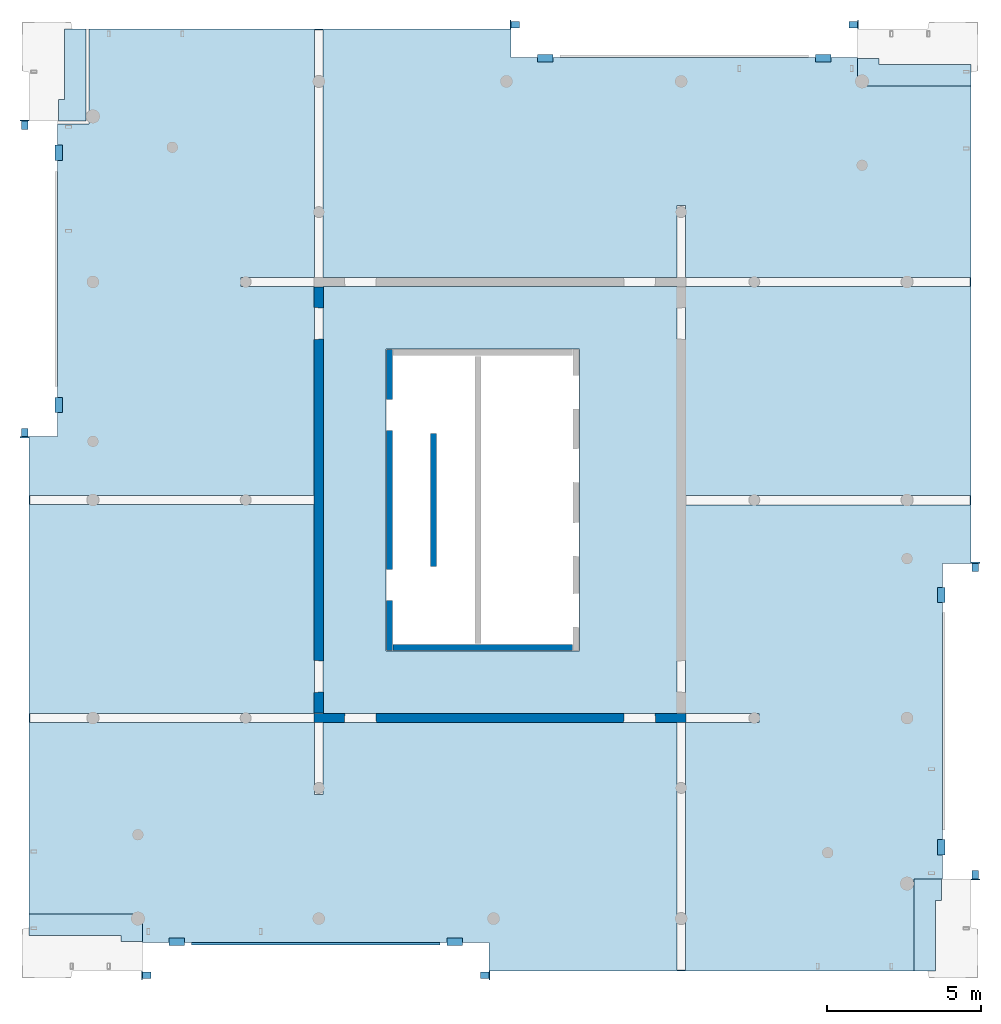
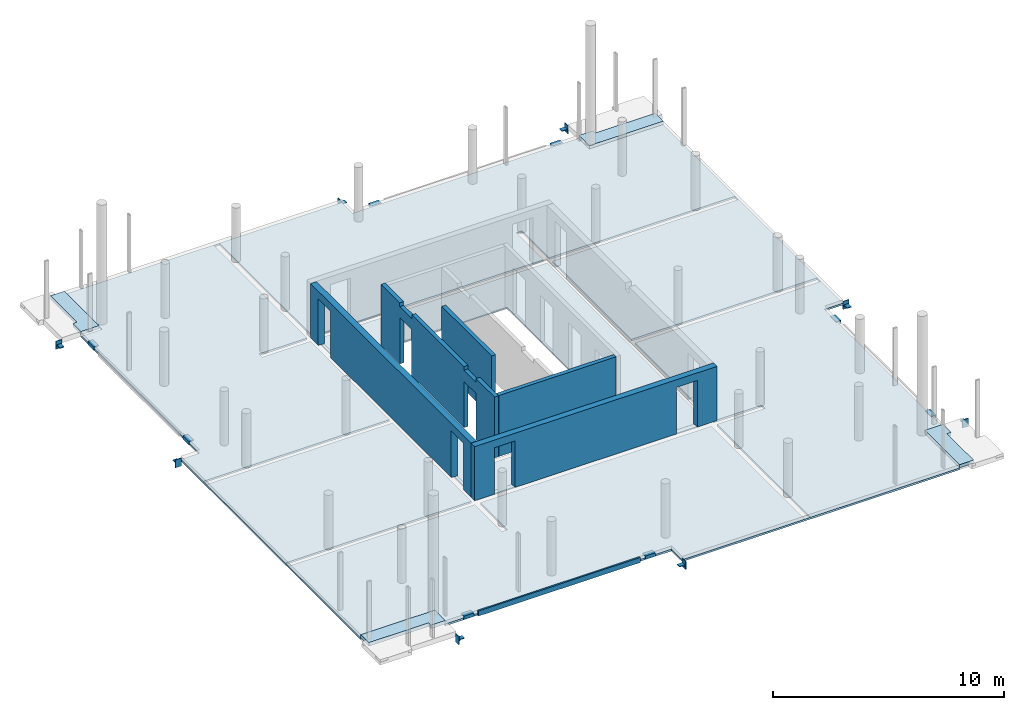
# One storey, part 5 of 7: 16 beams, 6 slabs, 6 walls, 10 openings.
"""IFC2X3 building model written with IfcOpenShell, lengths in millimetres."""

from ifc_helpers import new_model, entity, si_unit, converted_unit, derived_unit, direction, frame, frame_2d, origin, origin_2d_with_axis, place, context, subcontext, project, spatial, polyline, rectangle, outline, extrude, faceted_brep, source, transform, mapped, material, layer, layer_set, layer_usage, type_object, type_shapes, element, save


model = new_model("IFC2X3")

# Units and contexts
model_context = context("Model", 3, precision=0.01, world=origin(), true_north=direction((6.12303176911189e-17, 1.0)))
body_context = subcontext(model_context, "Body", "Model", "MODEL_VIEW")
ifc_project = project(units=[si_unit("LENGTHUNIT", "METRE", prefix="MILLI"), si_unit("AREAUNIT", "SQUARE_METRE"), si_unit("VOLUMEUNIT", "CUBIC_METRE"), converted_unit("PLANEANGLEUNIT", "DEGREE", entity("IfcRatioMeasure", 0.0174532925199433), si_unit("PLANEANGLEUNIT", "RADIAN"), dimensions=[0, 0, 0, 0, 0, 0, 0]), si_unit("MASSUNIT", "GRAM", prefix="KILO"), derived_unit("MASSDENSITYUNIT", [(si_unit("MASSUNIT", "GRAM", prefix="KILO"), 1), (si_unit("LENGTHUNIT", "METRE"), -3)]), si_unit("TIMEUNIT", "SECOND"), si_unit("FREQUENCYUNIT", "HERTZ"), si_unit("THERMODYNAMICTEMPERATUREUNIT", "DEGREE_CELSIUS"), derived_unit("THERMALTRANSMITTANCEUNIT", [(si_unit("MASSUNIT", "GRAM", prefix="KILO"), 1), (si_unit("THERMODYNAMICTEMPERATUREUNIT", "KELVIN"), -1), (si_unit("TIMEUNIT", "SECOND"), -3)]), derived_unit("VOLUMETRICFLOWRATEUNIT", [(si_unit("LENGTHUNIT", "METRE"), 3), (si_unit("TIMEUNIT", "SECOND"), -1)]), si_unit("ELECTRICCURRENTUNIT", "AMPERE"), si_unit("ELECTRICVOLTAGEUNIT", "VOLT"), si_unit("POWERUNIT", "WATT"), si_unit("FORCEUNIT", "NEWTON", prefix="KILO"), si_unit("ILLUMINANCEUNIT", "LUX"), si_unit("LUMINOUSFLUXUNIT", "LUMEN"), si_unit("LUMINOUSINTENSITYUNIT", "CANDELA"), derived_unit("USERDEFINED", [(si_unit("MASSUNIT", "GRAM", prefix="KILO"), -1), (si_unit("LENGTHUNIT", "METRE"), -2), (si_unit("TIMEUNIT", "SECOND"), 3), (si_unit("LUMINOUSFLUXUNIT", "LUMEN"), 1)]), derived_unit("LINEARVELOCITYUNIT", [(si_unit("LENGTHUNIT", "METRE"), 1), (si_unit("TIMEUNIT", "SECOND"), -1)]), si_unit("PRESSUREUNIT", "PASCAL"), derived_unit("USERDEFINED", [(si_unit("LENGTHUNIT", "METRE"), -2), (si_unit("MASSUNIT", "GRAM", prefix="KILO"), 1), (si_unit("TIMEUNIT", "SECOND"), -2)])], contexts=[model_context])

# Site, building, storey
site_placement = place(None, origin())
site = spatial("IfcSite", under=ifc_project, at=site_placement, Name="Default", CompositionType="ELEMENT")
building_placement = place(site_placement, origin())
building = spatial("IfcBuilding", under=site, at=building_placement, Name="niet gebruiken", CompositionType="ELEMENT")
storey_placement = place(building_placement, frame((0.0, 0.0, 165060.0)))
storey = spatial("IfcBuildingStorey", under=building, at=storey_placement, Name="53 drieënvijftigste verdieping", CompositionType="ELEMENT", Elevation=165060.0)

# Beams
ifc_material_1 = material(Name="NLRS_h2_staal")
beam_type_1 = type_object("IfcBeamType", Name="NLRS_28.11_SF_WPB_stalen schoen 4_gen", PredefinedType="BEAM", material=ifc_material_1)
shared_shape_1 = source(origin(), body_context, "Body", "SweptSolid", [
    extrude(outline(polyline([(-69.4999999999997, -23.0), (8.49999999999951, -23.0), (30.5, -1.0), (30.5000000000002, 47.0), (-69.4999999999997, -23.0)])), frame((-105.0, -109.499999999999, -58.0), z_axis=(1.0, 0.0, 0.0), x_axis=(0.0, -1.0, 0.0)), (0.0, 0.0, 1.0), 35.0),
    extrude(outline(polyline([(-69.4999999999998, -23.0), (8.49999999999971, -23.0), (30.5, -1.0), (30.5000000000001, 47.0), (-69.4999999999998, -23.0)])), frame((70.0, -109.499999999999, -58.0), z_axis=(1.0, 0.0, 0.0), x_axis=(0.0, -1.0, 0.0)), (0.0, 0.0, 1.0), 35.0),
    extrude(rectangle(XDim=300.0, YDim=34.9999999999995, at=origin_2d_with_axis()), frame((0.0, -157.5, -230.0), z_axis=(0.0, 0.0, 1.0), x_axis=(-1.0, 0.0, 0.0)), (0.0, 0.0, 1.0), 420.0),
    extrude(rectangle(XDim=210.000000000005, YDim=274.999999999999, at=origin_2d_with_axis()), frame((0.0, -2.4999999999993, -35.0), z_axis=(0.0, 0.0, 1.0), x_axis=(-1.0, 0.0, 0.0)), (0.0, 0.0, 1.0), 35.0),
])
type_shapes(beam_type_1, [shared_shape_1])
for number, where, z_axis, x_axis, name in (
    (1, (141250.0, 2020.0, -370.0), (0.0, 0.0, 1.0), (0.0, 1.0, 0.0), "NLRS_28.11_SF_WPB_stalen schoen 4_gen:NLRS_28.11_SF_WPB_stalen schoen 4_gen"),
    (2, (142250.0, 32980.0, -370.0), (0.0, 0.0, 1.0), (0.0, -1.0, 0.0), "NLRS_28.11_SF_WPB_stalen schoen 4_gen:NLRS_28.11_SF_WPB_stalen schoen 4_gen"),
    (3, (157230.0, 15300.0, -370.0), (0.0, 0.0, 1.0), (-1.0, 0.0, 0.0), "NLRS_28.11_SF_WPB_stalen schoen 4_gen:NLRS_28.11_SF_WPB_stalen schoen 4_gen"),
):
    element("IfcBeam", number, at=place(storey_placement, frame(where, z_axis=z_axis, x_axis=x_axis)), inside=storey, type_object=beam_type_1, material=ifc_material_1, Name=name, ObjectType="NLRS_28.11_SF_WPB_stalen schoen 4_gen", context=body_context, shape_type="MappedRepresentation", body=[
        mapped(shared_shape_1, transform((0.0, 0.0, 0.0), scale=1.0)),
    ])
beam_1_placement = place(storey_placement, frame((126270.0, 19700.0, -370.0)))
element("IfcBeam", 4, at=beam_1_placement, inside=storey, type_object=beam_type_1, material=ifc_material_1, Name="NLRS_28.11_SF_WPB_stalen schoen 4_gen:NLRS_28.11_SF_WPB_stalen schoen 4_gen", ObjectType="NLRS_28.11_SF_WPB_stalen schoen 4_gen", context=body_context, shape_type="MappedRepresentation", body=[
    mapped(shared_shape_1, transform((0.0, 0.0, 0.0), scale=1.0)),
])
beam_type_2 = type_object("IfcBeamType", Name="NLRS_28.11_SF_WPB_stalen schoen 3_gen", PredefinedType="BEAM", material=ifc_material_1)
shared_shape_2 = source(origin(), body_context, "Body", "SweptSolid", [
    extrude(outline(polyline([(-69.4999999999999, -23.0), (8.49999999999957, -23.0), (30.5000000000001, -1.0), (30.5000000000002, 47.0), (-69.4999999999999, -23.0)])), frame((-105.0, -109.499999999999, -63.0), z_axis=(1.0, 0.0, 0.0), x_axis=(0.0, -1.0, 0.0)), (0.0, 0.0, 1.0), 40.0),
    extrude(outline(polyline([(-69.4999999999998, -23.0), (8.49999999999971, -23.0), (30.5, -1.0), (30.5000000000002, 47.0), (-69.4999999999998, -23.0)])), frame((65.0, -109.499999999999, -63.0), z_axis=(1.0, 0.0, 0.0), x_axis=(0.0, -1.0, 0.0)), (0.0, 0.0, 1.0), 40.0),
    extrude(rectangle(XDim=300.0, YDim=39.9999999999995, at=origin_2d_with_axis()), frame((0.0, -160.0, -230.0), z_axis=(0.0, 0.0, 1.0), x_axis=(-1.0, 0.0, 0.0)), (0.0, 0.0, 1.0), 420.0),
    extrude(rectangle(XDim=210.000000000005, YDim=274.999999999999, at=origin_2d_with_axis()), frame((0.0, -2.49999999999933, -40.0), z_axis=(0.0, 0.0, 1.0), x_axis=(-1.0, 0.0, 0.0)), (0.0, 0.0, 1.0), 39.9999999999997),
])
type_shapes(beam_type_2, [shared_shape_2])
for number, where, z_axis, x_axis, name in (
    (5, (130250.0, 2020.0, -370.0), (0.0, 0.0, 1.0), (0.0, -1.0, 0.0), "NLRS_28.11_SF_WPB_stalen schoen 3_gen:NLRS_28.11_SF_WPB_stalen schoen 3_gen"),
    (6, (153250.0, 32980.0, -370.0), (0.0, 0.0, 1.0), (0.0, 1.0, 0.0), "NLRS_28.11_SF_WPB_stalen schoen 3_gen:NLRS_28.11_SF_WPB_stalen schoen 3_gen"),
):
    element("IfcBeam", number, at=place(storey_placement, frame(where, z_axis=z_axis, x_axis=x_axis)), inside=storey, type_object=beam_type_2, material=ifc_material_1, Name=name, ObjectType="NLRS_28.11_SF_WPB_stalen schoen 3_gen", context=body_context, shape_type="MappedRepresentation", body=[
        mapped(shared_shape_2, transform((0.0, 0.0, 0.0), scale=1.0)),
    ])
beam_2_placement = place(storey_placement, frame((157230.0, 5300.0, -370.0)))
element("IfcBeam", 7, at=beam_2_placement, inside=storey, type_object=beam_type_2, material=ifc_material_1, Name="NLRS_28.11_SF_WPB_stalen schoen 3_gen:NLRS_28.11_SF_WPB_stalen schoen 3_gen", ObjectType="NLRS_28.11_SF_WPB_stalen schoen 3_gen", context=body_context, shape_type="MappedRepresentation", body=[
    mapped(shared_shape_2, transform((0.0, 0.0, 0.0), scale=1.0)),
])
beam_3_placement = place(storey_placement, frame((126270.0, 29700.0, -370.0), z_axis=(0.0, 0.0, 1.0), x_axis=(-1.0, 0.0, 0.0)))
element("IfcBeam", 8, at=beam_3_placement, inside=storey, type_object=beam_type_2, material=ifc_material_1, Name="NLRS_28.11_SF_WPB_stalen schoen 3_gen:NLRS_28.11_SF_WPB_stalen schoen 3_gen", ObjectType="NLRS_28.11_SF_WPB_stalen schoen 3_gen", context=body_context, shape_type="MappedRepresentation", body=[
    mapped(shared_shape_2, transform((0.0, 0.0, 0.0), scale=1.0)),
])
beam_type_3 = type_object("IfcBeamType", Name="NLRS_28.11_SF_WPB_stalen handje 7 lang 375_gen:NLRS_28.11_SF_WPB_stalen handje 7_gen", PredefinedType="BEAM")
for number, where, z_axis, x_axis, name in (
    (9, (140525.006582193, 2995.0, -93.0), (0.0, 0.0, 1.0), (-1.0, 0.0, 0.0), "NLRS_28.11_SF_WPB_stalen handje 7 lang 375_gen:NLRS_28.11_SF_WPB_stalen handje 7_gen"),
    (10, (131475.003540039, 2995.0, -93.0), (0.0, 0.0, 1.0), (-1.0, 0.0, 0.0), "NLRS_28.11_SF_WPB_stalen handje 7 lang 375_gen:NLRS_28.11_SF_WPB_stalen handje 7_gen"),
):
    element("IfcBeam", number, at=place(storey_placement, frame(where, z_axis=z_axis, x_axis=x_axis)), inside=storey, type_object=beam_type_3, material=ifc_material_1, Name=name, ObjectType="NLRS_28.11_SF_WPB_stalen handje 7 lang 375_gen:NLRS_28.11_SF_WPB_stalen handje 7_gen", context=body_context, shape_type="SweptSolid", body=[
        extrude(outline(polyline([(-70.6666666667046, -153.333333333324), (-40.6666666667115, -153.333333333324), (-40.6666666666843, 61.6666666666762), (111.333333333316, 61.6666666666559), (111.33333333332, 91.6666666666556), (-70.6666666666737, 91.6666666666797), (-70.6666666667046, -153.333333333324)])), frame((0.0, -91.6666666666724, -70.6666666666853), z_axis=(1.0, 0.0, 0.0), x_axis=(0.0, 0.0, -1.0)), (0.0, 0.0, 1.0), 500.000000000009),
    ])
beam_4_placement = place(storey_placement, frame((142974.993417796, 32005.0, -93.0)))
element("IfcBeam", 11, at=beam_4_placement, inside=storey, type_object=beam_type_3, material=ifc_material_1, Name="NLRS_28.11_SF_WPB_stalen handje 7 lang 375_gen:NLRS_28.11_SF_WPB_stalen handje 7_gen", ObjectType="NLRS_28.11_SF_WPB_stalen handje 7 lang 375_gen:NLRS_28.11_SF_WPB_stalen handje 7_gen", context=body_context, shape_type="SweptSolid", body=[
    extrude(outline(polyline([(-70.6666666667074, -153.333333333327), (-40.6666666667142, -153.333333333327), (-40.6666666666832, 61.6666666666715), (111.333333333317, 61.6666666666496), (111.333333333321, 91.6666666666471), (-70.666666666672, 91.6666666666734), (-70.6666666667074, -153.333333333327)])), frame((0.0, -91.6666666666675, -70.6666666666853), z_axis=(1.0, 0.0, 0.0), x_axis=(0.0, 0.0, -1.0)), (0.0, 0.0, 1.0), 500.000000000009),
])
beam_5_placement = place(storey_placement, frame((152024.99645995, 32005.0, -93.0)))
element("IfcBeam", 12, at=beam_5_placement, inside=storey, type_object=beam_type_3, material=ifc_material_1, Name="NLRS_28.11_SF_WPB_stalen handje 7 lang 375_gen:NLRS_28.11_SF_WPB_stalen handje 7_gen", ObjectType="NLRS_28.11_SF_WPB_stalen handje 7 lang 375_gen:NLRS_28.11_SF_WPB_stalen handje 7_gen", context=body_context, shape_type="SweptSolid", body=[
    extrude(outline(polyline([(-70.6666666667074, -153.333333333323), (-40.6666666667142, -153.333333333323), (-40.6666666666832, 61.6666666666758), (111.333333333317, 61.6666666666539), (111.333333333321, 91.6666666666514), (-70.666666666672, 91.6666666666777), (-70.6666666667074, -153.333333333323)])), frame((0.0, -91.6666666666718, -70.6666666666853), z_axis=(1.0, 0.0, 0.0), x_axis=(0.0, 0.0, -1.0)), (0.0, 0.0, 1.0), 500.000000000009),
])
beam_6_placement = place(storey_placement, frame((156235.0, 14655.0097115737, -93.0), z_axis=(0.0, 0.0, 1.0), x_axis=(0.0, -1.0, 0.0)))
element("IfcBeam", 13, at=beam_6_placement, inside=storey, type_object=beam_type_3, material=ifc_material_1, Name="NLRS_28.11_SF_WPB_stalen handje 7 lang 375_gen:NLRS_28.11_SF_WPB_stalen handje 7_gen", ObjectType="NLRS_28.11_SF_WPB_stalen handje 7 lang 375_gen:NLRS_28.11_SF_WPB_stalen handje 7_gen", context=body_context, shape_type="SweptSolid", body=[
    extrude(outline(polyline([(-70.6666666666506, -153.333333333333), (-40.6666666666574, -153.333333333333), (-40.6666666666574, 61.66666666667), (111.333333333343, 61.66666666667), (111.333333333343, 91.6666666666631), (-70.6666666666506, 91.6666666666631), (-70.6666666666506, -153.333333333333)])), frame((0.0, -91.666666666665, -70.6666666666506), z_axis=(1.0, 0.0, 0.0), x_axis=(0.0, 0.0, -1.0)), (0.0, 0.0, 1.0), 500.000000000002),
])
beam_7_placement = place(storey_placement, frame((156235.0, 6445.00971157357, -93.0), z_axis=(0.0, 0.0, 1.0), x_axis=(0.0, -1.0, 0.0)))
element("IfcBeam", 14, at=beam_7_placement, inside=storey, type_object=beam_type_3, material=ifc_material_1, Name="NLRS_28.11_SF_WPB_stalen handje 7 lang 375_gen:NLRS_28.11_SF_WPB_stalen handje 7_gen", ObjectType="NLRS_28.11_SF_WPB_stalen handje 7 lang 375_gen:NLRS_28.11_SF_WPB_stalen handje 7_gen", context=body_context, shape_type="SweptSolid", body=[
    extrude(outline(polyline([(-70.6666666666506, -153.333333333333), (-40.6666666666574, -153.333333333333), (-40.6666666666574, 61.66666666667), (111.333333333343, 61.66666666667), (111.333333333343, 91.6666666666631), (-70.6666666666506, 91.6666666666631), (-70.6666666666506, -153.333333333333)])), frame((0.0, -91.666666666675, -70.6666666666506), z_axis=(1.0, 0.0, 0.0), x_axis=(0.0, 0.0, -1.0)), (0.0, 0.0, 1.0), 500.000000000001),
])
beam_8_placement = place(storey_placement, frame((127265.0, 20344.990288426, -93.0), z_axis=(0.0, 0.0, 1.0), x_axis=(0.0, 1.0, 0.0)))
element("IfcBeam", 15, at=beam_8_placement, inside=storey, type_object=beam_type_3, material=ifc_material_1, Name="NLRS_28.11_SF_WPB_stalen handje 7 lang 375_gen:NLRS_28.11_SF_WPB_stalen handje 7_gen", ObjectType="NLRS_28.11_SF_WPB_stalen handje 7 lang 375_gen:NLRS_28.11_SF_WPB_stalen handje 7_gen", context=body_context, shape_type="SweptSolid", body=[
    extrude(outline(polyline([(-70.6666666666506, -153.333333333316), (-40.6666666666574, -153.333333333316), (-40.6666666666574, 61.6666666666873), (111.333333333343, 61.66666666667), (111.333333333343, 91.6666666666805), (-70.6666666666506, 91.6666666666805), (-70.6666666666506, -153.333333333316)])), frame((0.0, -91.6666666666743, -70.6666666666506), z_axis=(1.0, 0.0, 0.0), x_axis=(0.0, 0.0, -1.0)), (0.0, 0.0, 1.0), 500.000000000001),
])
beam_9_placement = place(storey_placement, frame((127265.0, 28554.9902884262, -93.0), z_axis=(0.0, 0.0, 1.0), x_axis=(0.0, 1.0, 0.0)))
element("IfcBeam", 16, at=beam_9_placement, inside=storey, type_object=beam_type_3, material=ifc_material_1, Name="NLRS_28.11_SF_WPB_stalen handje 7 lang 375_gen:NLRS_28.11_SF_WPB_stalen handje 7_gen", ObjectType="NLRS_28.11_SF_WPB_stalen handje 7 lang 375_gen:NLRS_28.11_SF_WPB_stalen handje 7_gen", context=body_context, shape_type="SweptSolid", body=[
    extrude(outline(polyline([(-70.6666666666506, -153.333333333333), (-40.6666666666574, -153.333333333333), (-40.6666666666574, 61.66666666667), (111.333333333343, 61.6666666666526), (111.333333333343, 91.6666666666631), (-70.6666666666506, 91.6666666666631), (-70.6666666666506, -153.333333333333)])), frame((0.0, -91.6666666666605, -70.6666666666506), z_axis=(1.0, 0.0, 0.0), x_axis=(0.0, 0.0, -1.0)), (0.0, 0.0, 1.0), 500.000000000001),
])

# Slabs
ifc_material_2 = material(Name="NLRS_f2_beton ihwg")
ifc_layer_1 = layer(ifc_material_2, 170.0)
ifc_layer_set_1 = layer_set([ifc_layer_1], Name="Floor:NLRS_23.21_FL_beton ihwg d=170_gen")
ifc_layer_usage_1 = layer_usage(ifc_layer_set_1, "AXIS3", "POSITIVE", 0.0)
slab_1_placement = place(storey_placement, origin())
element("IfcSlab", 17, at=slab_1_placement, inside=storey, material=ifc_layer_usage_1, Name="Floor:NLRS_23.21_FL_beton ihwg d=170_gen", ObjectType="Floor:NLRS_23.21_FL_beton ihwg d=170_gen", PredefinedType="FLOOR", context=body_context, shape_type="SweptSolid", body=[
    extrude(outline(polyline([(-1760.0, -533.333333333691), (1230.0, -533.333333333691), (1230.0, 366.666666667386), (530.0, 366.666666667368), (530.0, 166.666666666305), (-1760.0, 166.666666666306), (-1760.0, -533.333333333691)])), frame((155763.333333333, 3930.0, -90.0), z_axis=(0.0, 0.0, -1.0), x_axis=(0.0, 1.0, 0.0)), (0.0, 0.0, 1.0), 169.999999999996),
])
ifc_layer_2 = layer(ifc_material_2, 190.0)
ifc_layer_set_2 = layer_set([ifc_layer_2], Name="Floor:NLRS_23.21_FL_beton ihwg d=190_gen")
ifc_layer_usage_2 = layer_usage(ifc_layer_set_2, "AXIS3", "POSITIVE", 0.0)
slab_2_placement = place(storey_placement, origin())
element("IfcSlab", 18, at=slab_2_placement, inside=storey, material=ifc_layer_usage_2, Name="Floor:NLRS_23.21_FL_beton ihwg d=190_gen", ObjectType="Floor:NLRS_23.21_FL_beton ihwg d=190_gen", PredefinedType="FLOOR", context=body_context, shape_type="SweptSolid", body=[
    extrude(outline(polyline([(-166.666666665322, -2226.6666666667), (533.333333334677, -2226.6666666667), (533.33333333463, 1463.33333333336), (-366.666666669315, 1463.33333333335), (-366.666666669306, 763.33333333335), (-166.666666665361, 763.33333333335), (-166.666666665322, -2226.6666666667)])), frame((128646.666666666, 3486.66666666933, -90.0), z_axis=(0.0, 0.0, -1.0), x_axis=(0.0, 1.0, 0.0)), (0.0, 0.0, 1.0), 189.999999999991),
])
ifc_layer_usage_3 = layer_usage(ifc_layer_set_1, "AXIS3", "POSITIVE", 0.0)
slab_3_placement = place(storey_placement, origin())
element("IfcSlab", 19, at=slab_3_placement, inside=storey, material=ifc_layer_usage_3, Name="Floor:NLRS_23.21_FL_beton ihwg d=170_gen", ObjectType="Floor:NLRS_23.21_FL_beton ihwg d=170_gen", PredefinedType="FLOOR", context=body_context, shape_type="SweptSolid", body=[
    extrude(outline(polyline([(-1230.0, -366.666666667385), (-530.0, -366.666666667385), (-530.0, -166.666666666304), (1760.0, -166.666666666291), (1760.0, 533.333333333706), (-1230.0, 533.333333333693), (-1230.0, -366.666666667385)])), frame((127736.666666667, 31070.0, -90.0), z_axis=(0.0, 0.0, -1.0), x_axis=(0.0, 1.0, 0.0)), (0.0, 0.0, 1.0), 169.999999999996),
])
ifc_layer_usage_4 = layer_usage(ifc_layer_set_2, "AXIS3", "POSITIVE", 0.0)
slab_4_placement = place(storey_placement, origin())
element("IfcSlab", 20, at=slab_4_placement, inside=storey, material=ifc_layer_usage_4, Name="Floor:NLRS_23.21_FL_beton ihwg d=190_gen", ObjectType="Floor:NLRS_23.21_FL_beton ihwg d=190_gen", PredefinedType="FLOOR", context=body_context, shape_type="SweptSolid", body=[
    extrude(outline(polyline([(-533.33333333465, -1463.33333333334), (366.66666666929, -1463.33333333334), (366.666666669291, -763.333333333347), (166.666666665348, -763.333333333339), (166.666666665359, 2226.66666666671), (-533.333333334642, 2226.66666666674), (-533.33333333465, -1463.33333333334)])), frame((154853.333333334, 31513.3333333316, -90.0), z_axis=(0.0, 0.0, -1.0), x_axis=(0.0, 1.0, 0.0)), (0.0, 0.0, 1.0), 189.999999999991),
])

# Slab, opening
ifc_material_3 = material(Name="NLRS_f2_beton prefab")
ifc_layer_3 = layer(ifc_material_3, 60.0)
ifc_layer_set_3 = layer_set([ifc_layer_3], Name="Floor:NLRS_23.21_FL_breedplaat d=60_gen")
ifc_layer_usage_5 = layer_usage(ifc_layer_set_3, "AXIS3", "POSITIVE", 0.0)
slab_5_placement = place(storey_placement, frame((135990.0, 10540.0, -320.0)))
slab_5 = element("IfcSlab", 21, at=slab_5_placement, inside=storey, material=ifc_layer_usage_5, Name="Floor:NLRS_23.21_FL_breedplaat d=60_gen", ObjectType="Floor:NLRS_23.21_FL_breedplaat d=60_gen", PredefinedType="FLOOR", context=body_context, shape_type="SweptSolid", body=[
    extrude(rectangle(XDim=13919.9999999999, YDim=11520.0, at=frame_2d((0.0, 0.0), x_axis=(0.0, -1.0))), frame((5760.0, 6960.0, 60.0), z_axis=(0.0, 0.0, -1.0), x_axis=(-1.0, 0.0, 0.0)), (0.0, 0.0, 1.0), 59.9999999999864),
])
opening_1_placement = place(slab_5_placement, frame((5200.0, 6960.0, 60.0)))
element("IfcOpeningElement", 22, at=opening_1_placement, cuts=slab_5, Name="Floor:NLRS_23.21_FL_breedplaat d=60_gen:2", ObjectType="Opening", context=body_context, shape_type="SweptSolid", body=[
    extrude(rectangle(XDim=9820.0, YDim=6299.99999999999, at=origin_2d_with_axis()), frame((0.0, 0.0, 0.0), z_axis=(0.0, 0.0, -1.0), x_axis=(0.0, -1.0, 0.0)), (0.0, 0.0, 1.0), 59.9999999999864),
])

ifc_layer_4 = layer(ifc_material_3, 100.0)
ifc_layer_set_4 = layer_set([ifc_layer_4], Name="Floor:NLRS_23.21_FL_breedplaat d=100_gen")
ifc_layer_usage_6 = layer_usage(ifc_layer_set_4, "AXIS3", "POSITIVE", 0.0)
slab_6_placement = place(storey_placement, frame((126420.0, 2170.0, -360.0)))
slab_6 = element("IfcSlab", 23, at=slab_6_placement, inside=storey, material=ifc_layer_usage_6, Name="Floor:NLRS_23.21_FL_breedplaat d=100_gen", ObjectType="Floor:NLRS_23.21_FL_breedplaat d=100_gen", PredefinedType="FLOOR", context=body_context, shape_type="SweptSolid", body=[
    extrude(outline(polyline([(14405.0, 2060.0), (14405.0, 12240.0), (13380.0, 12240.0), (13380.0, 15330.0), (-360.0, 15330.0), (-360.0, 14405.0), (-11640.0, 14405.0), (-11640.0, 13480.0), (-15330.0, 13480.0), (-15330.0, -2060.0), (-14405.0, -2060.0), (-14405.0, -12340.0), (-13480.0, -12340.0), (-13480.0, -15330.0), (360.0, -15330.0), (360.0, -14405.0), (11640.0, -14405.0), (11640.0, -13480.0), (15330.0, -13480.0), (15330.0, 2060.0), (14405.0, 2060.0)])), frame((15330.0, 15330.0, 100.0), z_axis=(0.0, 0.0, -1.0), x_axis=(-1.0, 0.0, 0.0)), (0.0, 0.0, 1.0), 100.000000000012),
])
opening_2_placement = place(slab_6_placement, frame((15330.0, 15328.8888888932, 100.0)))
element("IfcOpeningElement", 24, at=opening_2_placement, cuts=slab_6, Name="Floor:NLRS_23.21_FL_breedplaat d=100_gen:2", ObjectType="Opening", context=body_context, shape_type="SweptSolid", body=[
    extrude(outline(polyline([(6040.0, -7238.88888888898), (15300.0, -7238.88888888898), (15300.0, -6958.88888888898), (6040.0, -6958.88888888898), (6040.0, -138.888888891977), (15300.0, -138.888888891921), (15300.0, 141.111111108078), (6040.0, 141.111111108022), (6040.0, 6961.11111111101), (8440.0, 6961.11111111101), (8440.0, 7241.111111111), (6040.0, 7241.111111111), (6040.0, 15301.1111111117), (5760.0, 15301.1111111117), (5760.0, 7241.11111111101), (-5760.0, 7241.11111111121), (-5760.0, 9591.11111111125), (-6040.0, 9591.11111111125), (-6040.0, 7241.11111111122), (-15300.0, 7241.1111111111), (-15300.0, 6961.11111111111), (-6040.0, 6961.11111111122), (-6040.0, 141.111111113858), (-15300.0, 141.111111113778), (-15300.0, -158.888888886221), (-6040.0, -158.888888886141), (-6040.0, -6958.88888888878), (-8440.0, -6958.88888888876), (-8440.0, -7238.88888888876), (-6040.0, -7238.88888888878), (-6040.0, -15298.8888888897), (-5760.0, -15298.8888888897), (-5760.0, -7238.88888888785), (5760.0, -7238.88888888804), (5760.0, -9588.88888888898), (6040.0, -9588.88888888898), (6040.0, -7238.88888888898)])), frame((0.0, 0.0, 0.0), z_axis=(0.0, 0.0, -1.0), x_axis=(-1.0, 0.0, 0.0)), (0.0, 0.0, 1.0), 100.000000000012),
])

# Wall, openings
ifc_layer_5 = layer(ifc_material_3, 200.0)
ifc_layer_set_5 = layer_set([ifc_layer_5], Name="Basic Wall:NLRS_22.21_WA_beton prefab d=200_gen")
ifc_layer_usage_7 = layer_usage(ifc_layer_set_5, "AXIS2", "NEGATIVE", 100.0)
wall_type_1 = type_object("IfcWallType", Name="Basic Wall:NLRS_22.21_WA_beton prefab d=200_gen", PredefinedType="STANDARD", material=ifc_layer_set_5)
wall_1_placement = place(storey_placement, frame((138150.0, 22400.0, -50.0), z_axis=(0.0, 0.0, 1.0), x_axis=(0.0, -1.0, 0.0)))
wall_1 = element("IfcWallStandardCase", 25, at=wall_1_placement, inside=storey, type_object=wall_type_1, material=ifc_layer_usage_7, Name="Basic Wall:NLRS_22.21_WA_beton prefab d=200_gen", ObjectType="Basic Wall:NLRS_22.21_WA_beton prefab d=200_gen", context=body_context, shape_type="SweptSolid", body=[
    extrude(rectangle(XDim=9800.0, YDim=199.999999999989, at=frame_2d((4900.0, 3.76587649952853e-13), x_axis=(-1.0, 0.0))), origin(), (0.0, 0.0, 1.0), 3220.00000000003),
])
opening_3_placement = place(wall_1_placement, origin())
element("IfcOpeningElement", 26, at=opening_3_placement, cuts=wall_1, Name="Basic Wall:NLRS_22.21_WA_beton prefab d=200_gen", ObjectType="Opening", context=body_context, shape_type="SweptSolid", body=[
    extrude(rectangle(XDim=200.000000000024, YDim=1044.0, at=origin_2d_with_axis()), frame((7672.0, -100.0, 3120.0), z_axis=(0.0, 1.0, 0.0), x_axis=(0.0, 0.0, -1.0)), (0.0, 0.0, 1.0), 199.999999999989),
])
opening_4_placement = place(wall_1_placement, origin())
element("IfcOpeningElement", 27, at=opening_4_placement, cuts=wall_1, Name="Basic Wall:NLRS_22.21_WA_beton prefab d=200_gen", ObjectType="Opening", context=body_context, shape_type="SweptSolid", body=[
    extrude(rectangle(XDim=200.000000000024, YDim=1044.0, at=frame_2d((0.0, 2.1600499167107e-12), x_axis=(1.0, 0.0))), frame((2128.0, -100.0, 3120.0), z_axis=(0.0, 1.0, 0.0), x_axis=(0.0, 0.0, -1.0)), (0.0, 0.0, 1.0), 199.999999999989),
])
opening_5_placement = place(wall_1_placement, origin())
element("IfcOpeningElement", 28, at=opening_5_placement, cuts=wall_1, Name="Basic Wall:NLRS_22.21_WA_beton prefab d=200_gen", ObjectType="Opening", context=body_context, shape_type="SweptSolid", body=[
    extrude(rectangle(XDim=2434.99999999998, YDim=1015.99999999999, at=frame_2d((0.0, -1.10844666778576e-12), x_axis=(1.0, 0.0))), frame((7672.0, -100.0, 1217.49999999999), z_axis=(0.0, 1.0, 0.0), x_axis=(0.0, 0.0, -1.0)), (0.0, 0.0, 1.0), 199.999999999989),
])
opening_6_placement = place(wall_1_placement, origin())
element("IfcOpeningElement", 29, at=opening_6_placement, cuts=wall_1, Name="Basic Wall:NLRS_22.21_WA_beton prefab d=200_gen", ObjectType="Opening", context=body_context, shape_type="SweptSolid", body=[
    extrude(rectangle(XDim=2434.99999999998, YDim=1015.99999999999, at=frame_2d((0.0, -2.18847162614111e-12), x_axis=(1.0, 0.0))), frame((2128.0, -100.0, 1217.49999999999), z_axis=(0.0, 1.0, 0.0), x_axis=(0.0, 0.0, -1.0)), (0.0, 0.0, 1.0), 199.999999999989),
])

# Walls
ifc_layer_usage_8 = layer_usage(ifc_layer_set_5, "AXIS2", "NEGATIVE", 100.0)
wall_2_placement = place(storey_placement, frame((139590.0, 19660.0, -50.0), z_axis=(0.0, 0.0, 1.0), x_axis=(0.0, -1.0, 0.0)))
element("IfcWallStandardCase", 30, at=wall_2_placement, inside=storey, type_object=wall_type_1, material=ifc_layer_usage_8, Name="Basic Wall:NLRS_22.21_WA_beton prefab d=200_gen", ObjectType="Basic Wall:NLRS_22.21_WA_beton prefab d=200_gen", context=body_context, shape_type="SweptSolid", body=[
    extrude(rectangle(XDim=4320.0, YDim=199.999999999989, at=frame_2d((2160.0, 0.0), x_axis=(-1.0, 0.0))), origin(), (0.0, 0.0, 1.0), 3220.00000000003),
])
ifc_layer_usage_9 = layer_usage(ifc_layer_set_5, "AXIS2", "NEGATIVE", 100.0)
wall_3_placement = place(storey_placement, frame((138270.0, 12700.0, -50.0)))
element("IfcWallStandardCase", 31, at=wall_3_placement, inside=storey, type_object=wall_type_1, material=ifc_layer_usage_9, Name="Basic Wall:NLRS_22.21_WA_beton prefab d=200_gen", ObjectType="Basic Wall:NLRS_22.21_WA_beton prefab d=200_gen", context=body_context, shape_type="SweptSolid", body=[
    extrude(rectangle(XDim=5839.99999999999, YDim=199.999999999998, at=frame_2d((2919.99999999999, -6.82121026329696e-13), x_axis=(-1.0, 0.0))), origin(), (0.0, 0.0, 1.0), 3220.00000000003),
])

# Wall, openings
ifc_layer_6 = layer(ifc_material_3, 300.0)
ifc_layer_set_6 = layer_set([ifc_layer_6], Name="Basic Wall:NLRS_22.21_WA_beton prefab d=300_gen")
ifc_layer_usage_10 = layer_usage(ifc_layer_set_6, "AXIS2", "NEGATIVE", 150.0)
wall_type_2 = type_object("IfcWallType", Name="Basic Wall:NLRS_22.21_WA_beton prefab d=300_gen", PredefinedType="STANDARD", material=ifc_layer_set_6)
wall_4_placement = place(storey_placement, frame((135850.0, 24430.0, -60.0), z_axis=(0.0, 0.0, 1.0), x_axis=(0.0, -1.0, 0.0)))
wall_4 = element("IfcWallStandardCase", 32, at=wall_4_placement, inside=storey, type_object=wall_type_2, material=ifc_layer_usage_10, Name="Basic Wall:NLRS_22.21_WA_beton prefab d=300_gen", ObjectType="Basic Wall:NLRS_22.21_WA_beton prefab d=300_gen", context=body_context, shape_type="SweptSolid", body=[
    extrude(rectangle(XDim=13860.0, YDim=300.000000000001, at=frame_2d((6930.0, -1.4210854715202e-14), x_axis=(-1.0, 0.0))), origin(), (0.0, 0.0, 1.0), 2859.99999999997),
])
opening_7_placement = place(wall_4_placement, frame((13198.0, -150.0, -10.0)))
element("IfcOpeningElement", 33, at=opening_7_placement, cuts=wall_4, Name="Basic Wall:NLRS_22.21_WA_beton prefab d=300_gen", ObjectType="Opening", context=body_context, shape_type="Brep", body=[
    faceted_brep([(-1042.0, 0.0, 2466.0), (-1024.0, 300.0, 2448.0), (-1024.0, 300.0, 0.0), (-1042.0, 0.0, 0.0), (-18.0, 300.0, 0.0), (0.0, 0.0, 0.0), (-18.0, 300.0, 2448.0), (0.0, 0.0, 2466.0)], [[[0, 1, 2, 3]], [[3, 2, 4, 5]], [[6, 4, 2, 1]], [[7, 0, 3, 5]], [[7, 6, 1, 0]], [[5, 4, 6, 7]]]),
])
opening_8_placement = place(wall_4_placement, frame((1704.0, -150.0, -10.0)))
element("IfcOpeningElement", 34, at=opening_8_placement, cuts=wall_4, Name="Basic Wall:NLRS_22.21_WA_beton prefab d=300_gen", ObjectType="Opening", context=body_context, shape_type="Brep", body=[
    faceted_brep([(-1042.0, 0.0, 2466.0), (-1024.0, 300.0, 2448.0), (-1024.0, 300.0, 0.0), (-1042.0, 0.0, 0.0), (-18.0, 300.0, 0.0), (0.0, 0.0, 0.0), (-18.0, 300.0, 2448.0), (0.0, 0.0, 2466.0)], [[[0, 1, 2, 3]], [[3, 2, 4, 5]], [[6, 4, 2, 1]], [[7, 0, 3, 5]], [[7, 6, 1, 0]], [[5, 4, 6, 7]]]),
])

ifc_layer_usage_11 = layer_usage(ifc_layer_set_6, "AXIS2", "NEGATIVE", 150.0)
wall_5_placement = place(storey_placement, frame((135700.0, 10400.0, -60.0)))
wall_5 = element("IfcWallStandardCase", 35, at=wall_5_placement, inside=storey, type_object=wall_type_2, material=ifc_layer_usage_11, Name="Basic Wall:NLRS_22.21_WA_beton prefab d=300_gen", ObjectType="Basic Wall:NLRS_22.21_WA_beton prefab d=300_gen", context=body_context, shape_type="SweptSolid", body=[
    extrude(rectangle(XDim=12100.0000000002, YDim=300.000000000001, at=frame_2d((6050.0000000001, 9.66338120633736e-13), x_axis=(-1.0, 0.0))), origin(), (0.0, 0.0, 1.0), 2859.99999999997),
])
opening_9_placement = place(wall_5_placement, frame((982.0, -150.0, -10.0)))
element("IfcOpeningElement", 36, at=opening_9_placement, cuts=wall_5, Name="Basic Wall:NLRS_22.21_WA_beton prefab d=300_gen", ObjectType="Opening", context=body_context, shape_type="Brep", body=[
    faceted_brep([(0.0, 0.0, 2466.0), (18.0, 300.0, 2448.0), (18.0, 300.0, 0.0), (0.0, 0.0, 0.0), (1024.0, 300.0, 0.0), (1042.0, 0.0, 0.0), (1024.0, 300.0, 2448.0), (1042.0, 0.0, 2466.0)], [[[0, 1, 2, 3]], [[3, 2, 4, 5]], [[6, 4, 2, 1]], [[7, 0, 3, 5]], [[7, 6, 1, 0]], [[5, 4, 6, 7]]]),
])
opening_10_placement = place(wall_5_placement, frame((10076.0, -150.0, -10.0)))
element("IfcOpeningElement", 37, at=opening_10_placement, cuts=wall_5, Name="Basic Wall:NLRS_22.21_WA_beton prefab d=300_gen", ObjectType="Opening", context=body_context, shape_type="Brep", body=[
    faceted_brep([(0.0, 0.0, 2466.0), (18.0, 300.0, 2448.0), (18.0, 300.0, 0.0), (0.0, 0.0, 0.0), (1024.0, 300.0, 0.0), (1042.0, 0.0, 0.0), (1024.0, 300.0, 2448.0), (1042.0, 0.0, 2466.0)], [[[0, 1, 2, 3]], [[3, 2, 4, 5]], [[6, 4, 2, 1]], [[7, 0, 3, 5]], [[7, 6, 1, 0]], [[5, 4, 6, 7]]]),
])

# Wall
ifc_material_4 = material(Name="NLRS_a_isolatie")
ifc_layer_7 = layer(ifc_material_4, 80.0)
ifc_layer_set_7 = layer_set([ifc_layer_7], Name="Basic Wall:NLRS_21.10_WA_isokorf d=80_gen")
ifc_layer_usage_12 = layer_usage(ifc_layer_set_7, "AXIS2", "NEGATIVE", 40.0)
wall_type_3 = type_object("IfcWallType", Name="Basic Wall:NLRS_21.10_WA_isokorf d=80_gen", PredefinedType="STANDARD", material=ifc_layer_set_7)
wall_6_placement = place(storey_placement, frame((139790.0, 3055.0, -360.0), z_axis=(0.0, 0.0, 1.0), x_axis=(-1.0, 0.0, 0.0)))
element("IfcWallStandardCase", 38, at=wall_6_placement, inside=storey, type_object=wall_type_3, material=ifc_layer_usage_12, Name="Basic Wall:NLRS_21.10_WA_isokorf d=80_gen", ObjectType="Basic Wall:NLRS_21.10_WA_isokorf d=80_gen", context=body_context, shape_type="SweptSolid", body=[
    extrude(rectangle(XDim=8080.0, YDim=80.0000000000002, at=frame_2d((4040.0, -1.66977542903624e-13), x_axis=(-1.0, 0.0))), origin(), (0.0, 0.0, 1.0), 270.000000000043),
])

save(model, "model.ifc")
